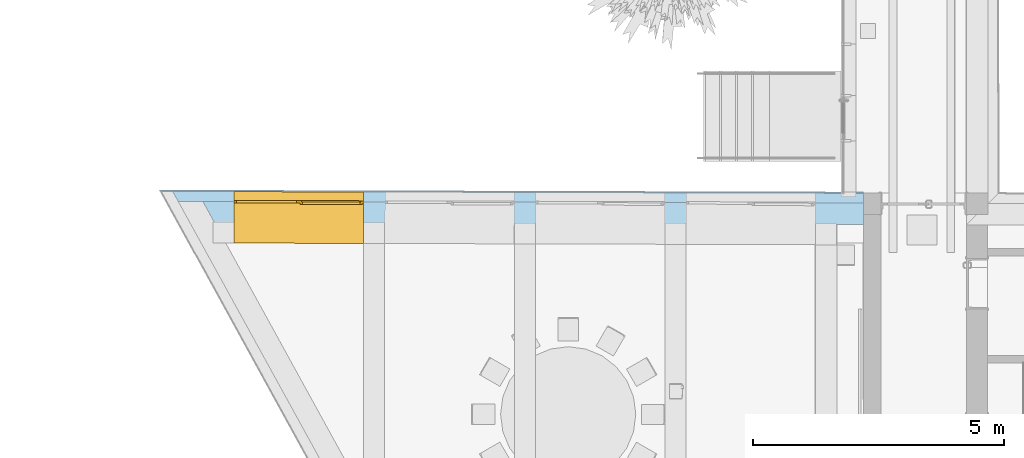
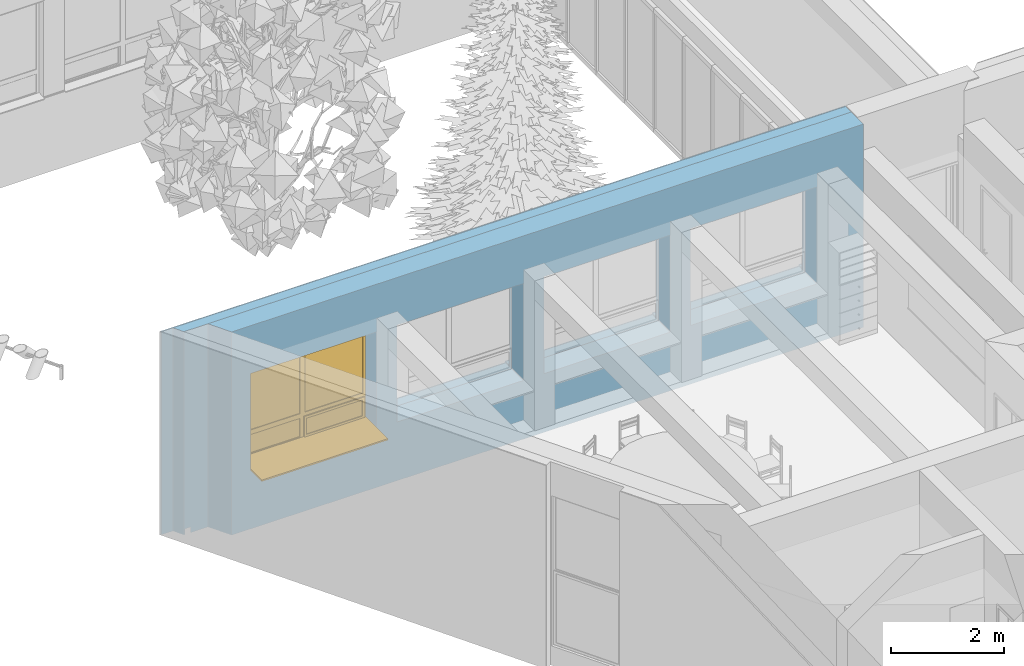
# One storey, part 85 of 194: 1 window, 4 openings, 1 element without a shape of its own, plus 3 elements that do not belong to this part.
"""IFC2X3 building model written with IfcOpenShell, lengths in millimetres."""

from ifc_helpers import new_model, entity, si_unit, converted_unit, derived_unit, money_unit, direction, frame, origin_with_axes, origin_2d_with_axis, place, context, subcontext, project, spatial, polyline, rectangle, outline, extrude, boolean, open_shell, faceted_brep, surface_model, material, type_object, element, fill, aggregate, save


model = new_model("IFC2X3")

# Units and contexts
model_context = context("Model", 3, precision=1e-05, world=origin_with_axes(), true_north=direction((0.0, 1.0)))
body_context = subcontext(model_context, "Body", "Model", "MODEL_VIEW")
ifc_project = project(units=[si_unit("LENGTHUNIT", "METRE", prefix="MILLI"), si_unit("AREAUNIT", "SQUARE_METRE"), si_unit("VOLUMEUNIT", "CUBIC_METRE"), converted_unit("PLANEANGLEUNIT", "DEGREE", entity("IfcPlaneAngleMeasure", 0.0174532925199), si_unit("PLANEANGLEUNIT", "RADIAN"), dimensions=[0, 0, 0, 0, 0, 0, 0]), si_unit("SOLIDANGLEUNIT", "STERADIAN"), money_unit("EUR"), converted_unit("TIMEUNIT", "Year", entity("IfcTimeMeasure", 31556926.0), si_unit("TIMEUNIT", "SECOND"), dimensions=[0, 0, 1, 0, 0, 0, 0]), si_unit("MASSUNIT", "GRAM", prefix="KILO"), si_unit("THERMODYNAMICTEMPERATUREUNIT", "DEGREE_CELSIUS"), si_unit("LUMINOUSINTENSITYUNIT", "LUMEN"), si_unit("ENERGYUNIT", "JOULE", prefix="MEGA"), derived_unit("THERMALCONDUCTANCEUNIT", [(si_unit("POWERUNIT", "WATT"), 1), (si_unit("LENGTHUNIT", "METRE"), -1), (si_unit("THERMODYNAMICTEMPERATUREUNIT", "KELVIN"), -1)]), derived_unit("SPECIFICHEATCAPACITYUNIT", [(si_unit("ENERGYUNIT", "JOULE"), 1), (si_unit("MASSUNIT", "GRAM", prefix="KILO"), -1), (si_unit("THERMODYNAMICTEMPERATUREUNIT", "KELVIN"), -1)]), derived_unit("MASSDENSITYUNIT", [(si_unit("MASSUNIT", "GRAM", prefix="KILO"), 1), (si_unit("VOLUMEUNIT", "CUBIC_METRE"), -1)])], contexts=[model_context])

# Site, building, storey
site_placement = place(None, origin_with_axes())
site = spatial("IfcSite", under=ifc_project, at=site_placement, Name="Site", CompositionType="ELEMENT")
building_placement = place(site_placement, origin_with_axes())
building = spatial("IfcBuilding", under=site, at=building_placement, Name="Building", CompositionType="ELEMENT")
storey_placement = place(building_placement, frame((0.0, 0.0, 3000.0), z_axis=(0.0, 0.0, 1.0), x_axis=(1.0, 0.0, 0.0)))
storey = spatial("IfcBuildingStorey", under=building, at=storey_placement, Name="2 KORRUS", CompositionType="ELEMENT", Elevation=3000.0)

# Window
window_style = type_object("IfcWindowStyle", Name="A2   2\xa0580×2\xa0100", ConstructionType="NOTDEFINED", OperationType="USERDEFINED", ParameterTakesPrecedence=False, Sizeable=False)
wall_placement = place(storey_placement, frame((24039.9995096, 22808.1040573, -420.0), z_axis=(0.0, 0.0, 1.0), x_axis=(0.999996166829, -0.0027688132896, 0.0)))
opening_4_placement = place(wall_placement, frame((2405.57062544, 9.09494701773e-10, 1270.0), z_axis=(0.0, 0.0, 1.0), x_axis=(1.0, 0.0, 0.0)))
window_placement = place(opening_4_placement, frame((1290.0, -1.81898940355e-09, 0.0), z_axis=(0.0, 0.0, 1.0), x_axis=(-1.0, 0.0, 0.0)))
window = element("IfcWindow", 1, at=window_placement, inside=storey, type_object=window_style, Name="välisaken * Double Window 22", OverallHeight=2100.0, OverallWidth=2580.0, context=body_context, shape_type="SurfaceModel", body=[
    faceted_brep([(2580.0, -220.0, 5.0), (2580.0, -19.9999999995, 5.0), (2580.0, -19.9999999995, 30.0), (2580.0, -220.0, 19.5184441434), (-1.13686837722e-10, -19.9999999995, 5.0), (0.0, -220.0, 5.0), (-1.13686837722e-10, -19.9999999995, 30.0), (0.0, -220.0, 19.5184441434)], [[[0, 1, 2, 3]], [[4, 1, 0, 5]], [[1, 4, 6, 2]], [[3, 2, 6, 7]], [[5, 0, 3, 7]], [[4, 5, 7, 6]]]),
    faceted_brep([(2580.0, -19.9999999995, 0.0), (2580.0, -19.9999999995, 5.0), (2580.0, -220.0, 5.0), (2580.0, -220.0, 0.0), (-1.13686837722e-10, -19.9999999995, 0.0), (-1.13686837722e-10, -19.9999999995, 5.0), (0.0, -220.0, 5.0), (0.0, -220.0, 0.0)], [[[0, 1, 2, 3]], [[4, 5, 1, 0]], [[1, 5, 6, 2]], [[3, 2, 6, 7]], [[0, 3, 7, 4]], [[7, 6, 5, 4]]]),
    faceted_brep([(0.0, 29.9999999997, 0.0), (0.0, 29.9999999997, 30.0), (-1.13686837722e-10, 430.0, 30.0), (-1.13686837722e-10, 430.0, 0.0), (2580.0, 29.9999999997, 0.0), (2580.0, 29.9999999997, 30.0), (2580.0, 430.0, 30.0), (2580.0, 830.0, 30.0), (-1.13686837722e-10, 830.0, 30.0), (-1.13686837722e-10, 830.0, 0.0), (2580.0, 830.0, 0.0), (2580.0, 430.0, 0.0)], [[[0, 1, 2, 3]], [[4, 5, 1, 0]], [[1, 5, 6, 7, 8, 2]], [[3, 2, 8, 9]], [[0, 3, 9, 10, 11, 4]], [[11, 6, 5, 4]], [[10, 7, 6, 11]], [[9, 8, 7, 10]]]),
    faceted_brep([(25.0, 30.0000000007, 475.0), (25.0, 30.0000000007, 50.0), (0.0, 29.9999999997, 50.0), (0.0, 29.9999999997, 2050.0), (50.0, 29.9999999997, 2050.0), (50.0, 29.9999999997, 550.0), (50.0, 29.9999999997, 475.0), (25.0, 5.00000000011, 475.0), (25.0, 5.00000000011, 50.0), (50.0, 5.00000000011, 50.0), (49.9999999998, -20.0000000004, 50.0), (-1.13686837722e-10, -19.9999999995, 50.0), (-1.13686837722e-10, -19.9999999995, 2050.0), (49.9999999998, -20.0000000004, 2050.0), (49.9999999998, -20.0000000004, 550.0), (50.0, 5.00000000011, 475.0), (49.9999999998, -20.0000000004, 450.0), (50.0, 5.00000000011, 450.0)], [[[0, 1, 2, 3, 4, 5, 6]], [[1, 0, 7, 8]], [[8, 9, 10, 11, 2, 1]], [[2, 11, 12, 3]], [[3, 12, 13, 4]], [[4, 13, 14, 5]], [[15, 6, 5, 14, 16, 17]], [[0, 6, 15, 7]], [[9, 8, 7, 15, 17]], [[9, 17, 16, 10]], [[11, 10, 16, 14, 13, 12]]]),
    faceted_brep([(1265.0, 29.9999999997, 50.0), (1265.0, 29.9999999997, 475.0), (1240.0, 29.9999999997, 475.0), (1240.0, 29.9999999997, 550.0), (1240.0, 29.9999999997, 2050.0), (1340.0, 30.0000000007, 2050.0), (1340.0, 30.0000000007, 550.0), (1340.0, 30.0000000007, 450.0), (1340.0, 30.0000000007, 50.0), (1265.0, 5.00000000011, 50.0), (1265.0, 5.00000000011, 475.0), (1240.0, 5.00000000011, 475.0), (1240.0, 5.00000000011, 450.0), (1240.0, -20.0000000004, 450.0), (1240.0, -20.0000000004, 550.0), (1240.0, -20.0000000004, 2050.0), (1340.0, -19.9999999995, 2050.0), (1340.0, -19.9999999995, 550.0), (1340.0, -19.9999999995, 450.0), (1340.0, -19.9999999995, 50.0), (1240.0, -20.0000000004, 50.0), (1240.0, 5.00000000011, 50.0)], [[[0, 1, 2, 3, 4, 5, 6, 7, 8]], [[1, 0, 9, 10]], [[11, 2, 1, 10]], [[11, 12, 13, 14, 3, 2]], [[3, 14, 15, 4]], [[4, 15, 16, 5]], [[5, 16, 17, 6]], [[6, 17, 18, 7]], [[7, 18, 19, 8]], [[9, 0, 8, 19, 20, 21]], [[12, 11, 10, 9, 21]], [[12, 21, 20, 13]], [[18, 17, 16, 15, 14, 13, 20, 19]]]),
    faceted_brep([(1240.0, 29.9999999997, 475.0), (50.0, 29.9999999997, 475.0), (50.0, 29.9999999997, 550.0), (1240.0, 29.9999999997, 550.0), (50.0, 5.00000000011, 475.0), (1240.0, 5.00000000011, 475.0), (50.0, 5.00000000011, 450.0), (49.9999999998, -20.0000000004, 450.0), (49.9999999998, -20.0000000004, 550.0), (1240.0, -20.0000000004, 550.0), (1240.0, -20.0000000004, 450.0), (1240.0, 5.00000000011, 450.0)], [[[0, 1, 2, 3]], [[4, 1, 0, 5]], [[4, 6, 7, 8, 2, 1]], [[2, 8, 9, 3]], [[5, 0, 3, 9, 10, 11]], [[6, 4, 5, 11]], [[6, 11, 10, 7]], [[10, 9, 8, 7]]]),
    faceted_brep([(50.0, 5.00000000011, 50.0), (25.0, 5.00000000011, 50.0), (25.0, 30.0000000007, 50.0), (0.0, 29.9999999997, 50.0), (-1.13686837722e-10, -19.9999999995, 50.0), (49.9999999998, -20.0000000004, 50.0), (1240.0, 5.00000000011, 50.0), (1265.0, 5.00000000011, 50.0), (1265.0, 5.00000000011, 25.0), (25.0, 5.00000000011, 25.0), (25.0, 30.0000000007, 25.0), (1265.0, 29.9999999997, 25.0), (1265.0, 29.9999999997, 50.0), (1340.0, 30.0000000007, 50.0), (2530.0, 29.9999999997, 50.0), (2580.0, 29.9999999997, 50.0), (2580.0, 29.9999999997, 0.0), (0.0, 29.9999999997, 0.0), (-1.13686837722e-10, -19.9999999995, 0.0), (2580.0, -19.9999999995, 50.0), (2530.0, -19.9999999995, 50.0), (1340.0, -19.9999999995, 50.0), (1240.0, -20.0000000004, 50.0), (2580.0, -19.9999999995, 0.0)], [[[0, 1, 2, 3, 4, 5]], [[1, 0, 6, 7, 8, 9]], [[10, 2, 1, 9]], [[11, 12, 13, 14, 15, 16, 17, 3, 2, 10]], [[17, 18, 4, 3]], [[19, 20, 21, 22, 5, 4, 18, 23]], [[6, 0, 5, 22]], [[7, 6, 22, 21, 13, 12]], [[7, 12, 11, 8]], [[11, 10, 9, 8]], [[13, 21, 20, 14]], [[14, 20, 19, 15]], [[15, 19, 23, 16]], [[16, 23, 18, 17]]]),
    faceted_brep([(2530.0, -19.9999999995, 450.0), (2530.0, -19.9999999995, 550.0), (2530.0, 29.9999999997, 550.0), (2530.0, 29.9999999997, 450.0), (2530.0, -19.9999999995, 50.0), (2580.0, -19.9999999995, 50.0), (2580.0, -19.9999999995, 2050.0), (2530.0, -19.9999999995, 2050.0), (2530.0, 29.9999999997, 2050.0), (2580.0, 29.9999999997, 2050.0), (2580.0, 29.9999999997, 50.0), (2530.0, 29.9999999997, 50.0)], [[[0, 1, 2, 3]], [[0, 4, 5, 6, 7, 1]], [[1, 7, 8, 2]], [[3, 2, 8, 9, 10, 11]], [[4, 0, 3, 11]], [[5, 4, 11, 10]], [[6, 5, 10, 9]], [[7, 6, 9, 8]]]),
    faceted_brep([(1340.0, -19.9999999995, 450.0), (1340.0, -19.9999999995, 550.0), (1340.0, 30.0000000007, 550.0), (1340.0, 30.0000000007, 450.0), (2530.0, -19.9999999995, 450.0), (2530.0, -19.9999999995, 550.0), (2530.0, 29.9999999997, 550.0), (2530.0, 29.9999999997, 450.0)], [[[0, 1, 2, 3]], [[0, 4, 5, 1]], [[1, 5, 6, 2]], [[3, 2, 6, 7]], [[4, 0, 3, 7]], [[5, 4, 7, 6]]]),
    faceted_brep([(1340.0, -19.9999999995, 2050.0), (1240.0, -20.0000000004, 2050.0), (1240.0, 29.9999999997, 2050.0), (1340.0, 30.0000000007, 2050.0), (2530.0, -19.9999999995, 2050.0), (2580.0, -19.9999999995, 2050.0), (2580.0, -19.9999999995, 2100.0), (-1.13686837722e-10, -19.9999999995, 2100.0), (-1.13686837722e-10, -19.9999999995, 2050.0), (49.9999999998, -20.0000000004, 2050.0), (50.0, 29.9999999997, 2050.0), (0.0, 29.9999999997, 2050.0), (0.0, 29.9999999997, 2100.0), (2580.0, 29.9999999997, 2100.0), (2580.0, 29.9999999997, 2050.0), (2530.0, 29.9999999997, 2050.0)], [[[0, 1, 2, 3]], [[0, 4, 5, 6, 7, 8, 9, 1]], [[1, 9, 10, 2]], [[3, 2, 10, 11, 12, 13, 14, 15]], [[4, 0, 3, 15]], [[5, 4, 15, 14]], [[6, 5, 14, 13]], [[7, 6, 13, 12]], [[8, 7, 12, 11]], [[9, 8, 11, 10]]]),
    surface_model("IfcShellBasedSurfaceModel", [(2530.0, -4.9999999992, 550.0), (2530.0, -4.9999999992, 2050.0), (1340.0, -5.00000000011, 2050.0), (1340.0, -5.00000000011, 550.0)], [open_shell([[[0, 1, 2, 3]]])]),
    surface_model("IfcShellBasedSurfaceModel", [(2530.0, 15.0000000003, 550.0), (1340.0, 15.0000000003, 550.0), (1340.0, 15.0000000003, 2050.0), (2530.0, 15.0000000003, 2050.0)], [open_shell([[[0, 1, 2, 3]]])]),
    surface_model("IfcShellBasedSurfaceModel", [(1240.0, -5.00000000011, 550.0), (1240.0, -5.00000000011, 2050.0), (49.9999999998, -5.00000000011, 2050.0), (49.9999999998, -5.00000000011, 550.0)], [open_shell([[[0, 1, 2, 3]]])]),
    surface_model("IfcShellBasedSurfaceModel", [(1240.0, 15.0000000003, 550.0), (49.9999999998, 14.9999999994, 550.0), (49.9999999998, 14.9999999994, 2050.0), (1240.0, 15.0000000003, 2050.0)], [open_shell([[[0, 1, 2, 3]]])]),
    surface_model("IfcShellBasedSurfaceModel", [(2530.0, -4.9999999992, 50.0), (2530.0, -4.9999999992, 450.0), (1340.0, -5.00000000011, 450.0), (1340.0, -5.00000000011, 50.0)], [open_shell([[[0, 1, 2, 3]]])]),
    surface_model("IfcShellBasedSurfaceModel", [(2530.0, 15.0000000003, 50.0), (1340.0, 15.0000000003, 50.0), (1340.0, 15.0000000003, 450.0), (2530.0, 15.0000000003, 450.0)], [open_shell([[[0, 1, 2, 3]]])]),
    faceted_brep([(1215.0, 5.00000000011, 425.0), (1265.0, 5.00000000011, 425.0), (1265.0, 55.0000000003, 425.0), (1215.0, 55.0000000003, 425.0), (1215.0, 5.00000000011, 75.0), (1265.0, 5.00000000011, 75.0), (1265.0, 55.0000000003, 75.0), (1215.0, 55.0000000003, 75.0)], [[[0, 1, 2, 3]], [[0, 4, 5, 1]], [[1, 5, 6, 2]], [[3, 2, 6, 7]], [[4, 0, 3, 7]], [[5, 4, 7, 6]]]),
    faceted_brep([(75.0, 5.00000000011, 75.0), (25.0, 5.00000000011, 75.0), (25.0, 55.0000000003, 75.0), (75.0, 55.0000000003, 75.0), (75.0, 5.00000000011, 425.0), (25.0, 5.00000000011, 425.0), (25.0, 55.0000000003, 425.0), (75.0, 55.0000000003, 425.0)], [[[0, 1, 2, 3]], [[0, 4, 5, 1]], [[1, 5, 6, 2]], [[3, 2, 6, 7]], [[4, 0, 3, 7]], [[5, 4, 7, 6]]]),
    faceted_brep([(25.0, 5.00000000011, 25.0), (25.0, 5.00000000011, 75.0), (25.0, 55.0000000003, 75.0), (25.0, 55.0000000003, 25.0), (1265.0, 5.00000000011, 25.0), (1265.0, 5.00000000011, 75.0), (1215.0, 5.00000000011, 75.0), (75.0, 5.00000000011, 75.0), (75.0, 55.0000000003, 75.0), (1215.0, 55.0000000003, 75.0), (1265.0, 55.0000000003, 75.0), (1265.0, 55.0000000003, 25.0)], [[[0, 1, 2, 3]], [[0, 4, 5, 6, 7, 1]], [[1, 7, 8, 2]], [[3, 2, 8, 9, 10, 11]], [[4, 0, 3, 11]], [[5, 4, 11, 10]], [[6, 5, 10, 9]], [[7, 6, 9, 8]]]),
    faceted_brep([(1265.0, 5.00000000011, 475.0), (1265.0, 5.00000000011, 425.0), (1265.0, 55.0000000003, 425.0), (1265.0, 55.0000000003, 475.0), (25.0, 5.00000000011, 475.0), (25.0, 5.00000000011, 425.0), (75.0, 5.00000000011, 425.0), (1215.0, 5.00000000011, 425.0), (1215.0, 55.0000000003, 425.0), (75.0, 55.0000000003, 425.0), (25.0, 55.0000000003, 425.0), (25.0, 55.0000000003, 475.0)], [[[0, 1, 2, 3]], [[0, 4, 5, 6, 7, 1]], [[1, 7, 8, 2]], [[3, 2, 8, 9, 10, 11]], [[4, 0, 3, 11]], [[5, 4, 11, 10]], [[6, 5, 10, 9]], [[7, 6, 9, 8]]]),
    surface_model("IfcShellBasedSurfaceModel", [(1215.0, 19.9999999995, 75.0), (1215.0, 19.9999999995, 425.0), (74.9999999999, 20.0000000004, 425.0), (74.9999999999, 20.0000000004, 75.0)], [open_shell([[[0, 1, 2, 3]]])]),
    surface_model("IfcShellBasedSurfaceModel", [(1215.0, 40.0, 75.0), (74.9999999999, 40.0, 75.0), (74.9999999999, 40.0, 425.0), (1215.0, 40.0, 425.0)], [open_shell([[[0, 1, 2, 3]]])]),
])

# Wall, openings
wall_type = type_object("IfcWallType", Name="VS4", PredefinedType="NOTDEFINED")
wall = element("IfcWall", 2, at=wall_placement, inside=storey, type_object=wall_type, Name="VS4")
opening_1_placement = place(wall_placement, frame((11402.4933934, 0.0, 1270.0), z_axis=(0.0, 0.0, 1.0), x_axis=(1.0, 0.0, 0.0)))
element("IfcOpeningElement", 3, at=opening_1_placement, cuts=wall, Name="välisaken * Double Window 22", context=body_context, shape_type="SweptSolid", body=[
    extrude(rectangle(XDim=2580.0, YDim=2100.0, at=origin_2d_with_axis()), frame((0.0, 19.9999999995, 1050.0), z_axis=(0.0, -1.0, 0.0), x_axis=(1.0, 0.0, 0.0)), (0.0, 0.0, 1.0), 1100.0),
    extrude(rectangle(XDim=2580.0, YDim=2100.0, at=origin_2d_with_axis()), frame((1.13686837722e-10, 19.9999999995, 1050.0), z_axis=(0.0, 1.0, 0.0), x_axis=(1.0, 0.0, 0.0)), (0.0, 0.0, 1.0), 850.0),
])
opening_2_placement = place(wall_placement, frame((8405.57062544, -9.09494701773e-10, 1270.0), z_axis=(0.0, 0.0, 1.0), x_axis=(1.0, 0.0, 0.0)))
element("IfcOpeningElement", 4, at=opening_2_placement, cuts=wall, Name="välisaken * Double Window 22", context=body_context, shape_type="SweptSolid", body=[
    extrude(rectangle(XDim=2580.0, YDim=2100.0, at=origin_2d_with_axis()), frame((0.0, 19.9999999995, 1050.0), z_axis=(0.0, -1.0, 0.0), x_axis=(1.0, 0.0, 0.0)), (0.0, 0.0, 1.0), 1100.0),
    extrude(rectangle(XDim=2580.0, YDim=2100.0, at=origin_2d_with_axis()), frame((0.0, 19.9999999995, 1050.0), z_axis=(0.0, 1.0, 0.0), x_axis=(1.0, 0.0, 0.0)), (0.0, 0.0, 1.0), 850.0),
])
opening_3_placement = place(wall_placement, frame((5405.57062544, 0.0, 1270.0), z_axis=(0.0, 0.0, 1.0), x_axis=(1.0, 0.0, 0.0)))
element("IfcOpeningElement", 5, at=opening_3_placement, cuts=wall, Name="välisaken * Double Window 22", context=body_context, shape_type="SweptSolid", body=[
    extrude(rectangle(XDim=2580.0, YDim=2100.0, at=origin_2d_with_axis()), frame((1.13686837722e-10, 20.0000000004, 1050.0), z_axis=(0.0, -1.0, 0.0), x_axis=(1.0, 0.0, 0.0)), (0.0, 0.0, 1.0), 1100.0),
    extrude(rectangle(XDim=2580.0, YDim=2100.0, at=origin_2d_with_axis()), frame((1.13686837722e-10, 20.0000000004, 1050.0), z_axis=(0.0, 1.0, 0.0), x_axis=(1.0, 0.0, 0.0)), (0.0, 0.0, 1.0), 850.0),
])
opening_4 = element("IfcOpeningElement", 6, at=opening_4_placement, cuts=wall, Name="välisaken * Double Window 22", context=body_context, shape_type="SweptSolid", body=[
    extrude(rectangle(XDim=2580.0, YDim=2100.0, at=origin_2d_with_axis()), frame((1.13686837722e-10, 19.9999999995, 1050.0), z_axis=(0.0, -1.0, 0.0), x_axis=(1.0, 0.0, 0.0)), (0.0, 0.0, 1.0), 1100.0),
    extrude(rectangle(XDim=2580.0, YDim=2100.0, at=origin_2d_with_axis()), frame((1.13686837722e-10, 19.9999999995, 1050.0), z_axis=(0.0, 1.0, 0.0), x_axis=(1.0, 0.0, 0.0)), (0.0, 0.0, 1.0), 850.0),
])

fill(opening_4, window)

# Building element part
ifc_material_1 = material(Name="Tellis - Konstuktsioon")
building_element_part_1_placement = place(wall_placement, origin_with_axes())
solid_1 = boolean("DIFFERENCE", boolean("DIFFERENCE", boolean("DIFFERENCE", boolean("DIFFERENCE", boolean("DIFFERENCE", boolean("DIFFERENCE", boolean("DIFFERENCE", boolean("DIFFERENCE", extrude(outline(polyline([(-373.259010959, -430.0), (13648.1213334, -430.0), (13648.1213334, 0.0), (-373.259010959, 0.0), (-373.259010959, -430.0)])), origin_with_axes(), (0.0, 0.0, 1.0), 4400.0), faceted_brep([(729.551703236, -430.0, 0.0), (729.551703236, -430.0, 4400.0), (-373.259010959, -430.0, 4400.0), (-373.259010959, -430.0, 0.0), (491.497507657, 0.0, 4400.0), (491.497507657, 0.0, 0.0), (-373.259010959, 0.0, 4400.0), (-373.259010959, 0.0, 0.0)], [[[0, 1, 2, 3]], [[4, 1, 0, 5]], [[1, 4, 6, 2]], [[3, 2, 6, 7]], [[5, 0, 3, 7]], [[4, 5, 7, 6]]])), faceted_brep([(18.915191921, 0.0, 122.647898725), (18.9151919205, 9.09494701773e-10, 0.0), (134.721092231, 9.09494701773e-10, 0.0), (134.72109223, 0.0, 122.647898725), (-90.7482444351, 200.0, 122.647898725), (-90.7482444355, 200.000000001, 0.0), (479.482351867, 200.000000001, 0.0), (484.103394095, 191.572319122, 0.0), (484.103394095, 191.572319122, 122.647898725), (479.482351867, 200.0, 122.647898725)], [[[0, 1, 2, 3]], [[1, 0, 4, 5]], [[2, 1, 5, 6, 7]], [[3, 2, 7, 8]], [[0, 3, 8, 9, 4]], [[5, 4, 9, 6]], [[7, 6, 9, 8]]])), faceted_brep([(-373.259010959, 0.0, 0.0), (0.0, 9.09494701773e-10, 0.0), (0.0, 9.09494701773e-10, 4400.0), (-373.259010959, 0.0, 4400.0), (-373.259010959, 200.0, 0.0), (-110.722881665, 200.000000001, 0.0), (-110.722881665, 200.000000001, 4400.0), (-373.259010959, 200.0, 4400.0)], [[[0, 1, 2, 3]], [[1, 0, 4, 5]], [[2, 1, 5, 6]], [[3, 2, 6, 7]], [[4, 0, 3, 7]], [[5, 4, 7, 6]]])), faceted_brep([(13416.1760753, 0.0081175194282, 340.0), (13416.176095, 9.09494701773e-10, 420.0), (13323.1995313, 0.151845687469, 420.0), (13323.1995313, 0.151845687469, 340.0), (13416.176095, 9.09494701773e-10, 0.0), (13648.1213334, 0.0, 0.0), (13648.1213334, 0.0, 420.0), (13648.1213334, 200.0, 420.0), (13322.7166463, 200.000000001, 420.0), (13322.7166463, 200.000000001, 340.0), (13415.6925541, 200.0, 340.0), (13415.6925541, 200.0, 0.0), (13648.1213334, 200.0, 0.0)], [[[0, 1, 2, 3]], [[0, 4, 5, 6, 1]], [[2, 1, 6, 7, 8]], [[3, 2, 8, 9]], [[0, 3, 9, 10]], [[4, 0, 10, 11]], [[5, 4, 11, 12]], [[6, 5, 12, 7]], [[9, 8, 7, 12, 11, 10]]])), faceted_brep([(728.20897733, 54.9444939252, 1300.0), (12965.6129154, 88.8277104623, 1300.0), (12965.6129154, 88.8277104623, 3400.0), (728.20897733, 54.9444939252, 3400.0), (727.807344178, 200.0, 1300.0), (12965.3050989, 200.0, 1300.0), (12965.3050989, 200.0, 3400.0), (727.807344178, 200.0, 3400.0)], [[[0, 1, 2, 3]], [[0, 4, 5, 1]], [[1, 5, 6, 2]], [[7, 3, 2, 6]], [[3, 7, 4, 0]], [[6, 5, 4, 7]]])), faceted_brep([(-339.326373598, 200.000000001, 0.0), (-339.326373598, 200.000000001, 4400.0), (-373.259010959, 200.0, 4400.0), (-373.259010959, 200.0, 0.0), (-350.398661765, 220.0, 4400.0), (-350.398661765, 220.0, 0.0), (-373.259010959, 219.999999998, 4400.0), (-373.259010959, 219.999999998, 0.0)], [[[0, 1, 2, 3]], [[4, 1, 0, 5]], [[1, 4, 6, 2]], [[6, 7, 3, 2]], [[5, 0, 3, 7]], [[4, 5, 7, 6]]])), faceted_brep([(-90.7482444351, 200.0, 122.647898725), (-90.7482444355, 200.000000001, 0.0), (479.482351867, 200.000000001, 0.0), (479.482351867, 200.0, 122.647898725), (-101.714588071, 220.000000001, 0.0), (-101.714588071, 220.000000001, 122.647898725), (468.516008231, 220.0, 0.0), (468.516008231, 220.000000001, 122.647898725)], [[[0, 1, 2, 3]], [[4, 1, 0, 5]], [[6, 2, 1, 4]], [[2, 6, 7, 3]], [[7, 5, 0, 3]], [[7, 6, 4, 5]]])), faceted_brep([(727.807344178, 200.0, 1300.0), (12965.3050989, 200.0, 1300.0), (12965.3050989, 200.0, 3400.0), (727.807344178, 200.0, 3400.0), (727.7519677, 220.0, 1300.0), (12965.2497224, 220.000000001, 1300.0), (12965.2497224, 220.000000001, 3400.0), (727.7519677, 219.999999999, 3400.0)], [[[0, 1, 2, 3]], [[4, 5, 1, 0]], [[5, 6, 2, 1]], [[6, 7, 3, 2]], [[7, 4, 0, 3]], [[4, 7, 6, 5]]]))
building_element_part_1 = element("IfcBuildingElementPart", 7, at=building_element_part_1_placement, material=ifc_material_1, Name="Tellis - Konstuktsioon", context=body_context, shape_type="CSG", body=[
    boolean("DIFFERENCE", solid_1, faceted_brep([(13322.6683211, 220.000000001, 340.0), (13322.6683211, 220.000000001, 420.0), (13648.1213334, 220.0, 420.0), (13648.1213334, 219.999999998, 0.0), (13415.6442, 220.0, 0.0), (13415.6442, 220.0, 340.0), (13322.7166463, 200.000000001, 340.0), (13322.7166463, 200.000000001, 420.0), (13648.1213334, 200.0, 420.0), (13648.1213334, 200.0, 0.0), (13415.6925541, 200.0, 0.0), (13415.6925541, 200.0, 340.0)], [[[0, 1, 2, 3, 4, 5]], [[1, 0, 6, 7]], [[8, 2, 1, 7]], [[2, 8, 9, 3]], [[10, 4, 3, 9]], [[5, 4, 10, 11]], [[0, 5, 11, 6]], [[11, 10, 9, 8, 7, 6]]])),
])

ifc_material_2 = material(Name="Soojustus - Plastik Kõva")
building_element_part_2_placement = place(wall_placement, origin_with_axes())
solid_2 = boolean("DIFFERENCE", boolean("DIFFERENCE", boolean("DIFFERENCE", boolean("DIFFERENCE", boolean("DIFFERENCE", boolean("DIFFERENCE", boolean("DIFFERENCE", boolean("DIFFERENCE", extrude(outline(polyline([(-373.259010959, 0.0), (13648.1213334, 0.0), (13648.1213334, 200.0), (-373.259010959, 200.0), (-373.259010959, 0.0)])), origin_with_axes(), (0.0, 0.0, 1.0), 4400.0), faceted_brep([(729.551703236, -430.0, 0.0), (729.551703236, -430.0, 4400.0), (-373.259010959, -430.0, 4400.0), (-373.259010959, -430.0, 0.0), (491.497507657, 0.0, 4400.0), (491.497507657, 0.0, 0.0), (-373.259010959, 0.0, 4400.0), (-373.259010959, 0.0, 0.0)], [[[0, 1, 2, 3]], [[4, 1, 0, 5]], [[1, 4, 6, 2]], [[3, 2, 6, 7]], [[5, 0, 3, 7]], [[4, 5, 7, 6]]])), faceted_brep([(18.915191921, 0.0, 122.647898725), (18.9151919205, 9.09494701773e-10, 0.0), (134.721092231, 9.09494701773e-10, 0.0), (134.72109223, 0.0, 122.647898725), (-90.7482444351, 200.0, 122.647898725), (-90.7482444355, 200.000000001, 0.0), (479.482351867, 200.000000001, 0.0), (484.103394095, 191.572319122, 0.0), (484.103394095, 191.572319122, 122.647898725), (479.482351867, 200.0, 122.647898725)], [[[0, 1, 2, 3]], [[1, 0, 4, 5]], [[2, 1, 5, 6, 7]], [[3, 2, 7, 8]], [[0, 3, 8, 9, 4]], [[5, 4, 9, 6]], [[7, 6, 9, 8]]])), faceted_brep([(-373.259010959, 0.0, 0.0), (0.0, 9.09494701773e-10, 0.0), (0.0, 9.09494701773e-10, 4400.0), (-373.259010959, 0.0, 4400.0), (-373.259010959, 200.0, 0.0), (-110.722881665, 200.000000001, 0.0), (-110.722881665, 200.000000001, 4400.0), (-373.259010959, 200.0, 4400.0)], [[[0, 1, 2, 3]], [[1, 0, 4, 5]], [[2, 1, 5, 6]], [[3, 2, 6, 7]], [[4, 0, 3, 7]], [[5, 4, 7, 6]]])), faceted_brep([(13416.1760753, 0.0081175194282, 340.0), (13416.176095, 9.09494701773e-10, 420.0), (13323.1995313, 0.151845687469, 420.0), (13323.1995313, 0.151845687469, 340.0), (13416.176095, 9.09494701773e-10, 0.0), (13648.1213334, 0.0, 0.0), (13648.1213334, 0.0, 420.0), (13648.1213334, 200.0, 420.0), (13322.7166463, 200.000000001, 420.0), (13322.7166463, 200.000000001, 340.0), (13415.6925541, 200.0, 340.0), (13415.6925541, 200.0, 0.0), (13648.1213334, 200.0, 0.0)], [[[0, 1, 2, 3]], [[0, 4, 5, 6, 1]], [[2, 1, 6, 7, 8]], [[3, 2, 8, 9]], [[0, 3, 9, 10]], [[4, 0, 10, 11]], [[5, 4, 11, 12]], [[6, 5, 12, 7]], [[9, 8, 7, 12, 11, 10]]])), faceted_brep([(728.20897733, 54.9444939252, 1300.0), (12965.6129154, 88.8277104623, 1300.0), (12965.6129154, 88.8277104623, 3400.0), (728.20897733, 54.9444939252, 3400.0), (727.807344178, 200.0, 1300.0), (12965.3050989, 200.0, 1300.0), (12965.3050989, 200.0, 3400.0), (727.807344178, 200.0, 3400.0)], [[[0, 1, 2, 3]], [[0, 4, 5, 1]], [[1, 5, 6, 2]], [[7, 3, 2, 6]], [[3, 7, 4, 0]], [[6, 5, 4, 7]]])), faceted_brep([(-339.326373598, 200.000000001, 0.0), (-339.326373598, 200.000000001, 4400.0), (-373.259010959, 200.0, 4400.0), (-373.259010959, 200.0, 0.0), (-350.398661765, 220.0, 4400.0), (-350.398661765, 220.0, 0.0), (-373.259010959, 219.999999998, 4400.0), (-373.259010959, 219.999999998, 0.0)], [[[0, 1, 2, 3]], [[4, 1, 0, 5]], [[1, 4, 6, 2]], [[6, 7, 3, 2]], [[5, 0, 3, 7]], [[4, 5, 7, 6]]])), faceted_brep([(-90.7482444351, 200.0, 122.647898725), (-90.7482444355, 200.000000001, 0.0), (479.482351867, 200.000000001, 0.0), (479.482351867, 200.0, 122.647898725), (-101.714588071, 220.000000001, 0.0), (-101.714588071, 220.000000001, 122.647898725), (468.516008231, 220.0, 0.0), (468.516008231, 220.000000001, 122.647898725)], [[[0, 1, 2, 3]], [[4, 1, 0, 5]], [[6, 2, 1, 4]], [[2, 6, 7, 3]], [[7, 5, 0, 3]], [[7, 6, 4, 5]]])), faceted_brep([(727.807344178, 200.0, 1300.0), (12965.3050989, 200.0, 1300.0), (12965.3050989, 200.0, 3400.0), (727.807344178, 200.0, 3400.0), (727.7519677, 220.0, 1300.0), (12965.2497224, 220.000000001, 1300.0), (12965.2497224, 220.000000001, 3400.0), (727.7519677, 219.999999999, 3400.0)], [[[0, 1, 2, 3]], [[4, 5, 1, 0]], [[5, 6, 2, 1]], [[6, 7, 3, 2]], [[7, 4, 0, 3]], [[4, 7, 6, 5]]]))
building_element_part_2 = element("IfcBuildingElementPart", 8, at=building_element_part_2_placement, material=ifc_material_2, Name="Soojustus - Plastik Kõva", context=body_context, shape_type="CSG", body=[
    boolean("DIFFERENCE", solid_2, faceted_brep([(13322.6683211, 220.000000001, 340.0), (13322.6683211, 220.000000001, 420.0), (13648.1213334, 220.0, 420.0), (13648.1213334, 219.999999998, 0.0), (13415.6442, 220.0, 0.0), (13415.6442, 220.0, 340.0), (13322.7166463, 200.000000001, 340.0), (13322.7166463, 200.000000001, 420.0), (13648.1213334, 200.0, 420.0), (13648.1213334, 200.0, 0.0), (13415.6925541, 200.0, 0.0), (13415.6925541, 200.0, 340.0)], [[[0, 1, 2, 3, 4, 5]], [[1, 0, 6, 7]], [[8, 2, 1, 7]], [[2, 8, 9, 3]], [[10, 4, 3, 9]], [[5, 4, 10, 11]], [[0, 5, 11, 6]], [[11, 10, 9, 8, 7, 6]]])),
])

ifc_material_3 = material(Name="Tellis - Viimistlus")
building_element_part_3_placement = place(wall_placement, origin_with_axes())
solid_3 = boolean("DIFFERENCE", boolean("DIFFERENCE", boolean("DIFFERENCE", boolean("DIFFERENCE", boolean("DIFFERENCE", boolean("DIFFERENCE", boolean("DIFFERENCE", boolean("DIFFERENCE", extrude(outline(polyline([(-373.259010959, 200.0), (13648.1213334, 200.0), (13648.1213334, 219.999999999), (-373.259010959, 219.999999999), (-373.259010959, 200.0)])), origin_with_axes(), (0.0, 0.0, 1.0), 4400.0), faceted_brep([(729.551703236, -430.0, 0.0), (729.551703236, -430.0, 4400.0), (-373.259010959, -430.0, 4400.0), (-373.259010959, -430.0, 0.0), (491.497507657, 0.0, 4400.0), (491.497507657, 0.0, 0.0), (-373.259010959, 0.0, 4400.0), (-373.259010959, 0.0, 0.0)], [[[0, 1, 2, 3]], [[4, 1, 0, 5]], [[1, 4, 6, 2]], [[3, 2, 6, 7]], [[5, 0, 3, 7]], [[4, 5, 7, 6]]])), faceted_brep([(18.915191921, 0.0, 122.647898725), (18.9151919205, 9.09494701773e-10, 0.0), (134.721092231, 9.09494701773e-10, 0.0), (134.72109223, 0.0, 122.647898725), (-90.7482444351, 200.0, 122.647898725), (-90.7482444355, 200.000000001, 0.0), (479.482351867, 200.000000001, 0.0), (484.103394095, 191.572319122, 0.0), (484.103394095, 191.572319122, 122.647898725), (479.482351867, 200.0, 122.647898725)], [[[0, 1, 2, 3]], [[1, 0, 4, 5]], [[2, 1, 5, 6, 7]], [[3, 2, 7, 8]], [[0, 3, 8, 9, 4]], [[5, 4, 9, 6]], [[7, 6, 9, 8]]])), faceted_brep([(-373.259010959, 0.0, 0.0), (0.0, 9.09494701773e-10, 0.0), (0.0, 9.09494701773e-10, 4400.0), (-373.259010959, 0.0, 4400.0), (-373.259010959, 200.0, 0.0), (-110.722881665, 200.000000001, 0.0), (-110.722881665, 200.000000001, 4400.0), (-373.259010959, 200.0, 4400.0)], [[[0, 1, 2, 3]], [[1, 0, 4, 5]], [[2, 1, 5, 6]], [[3, 2, 6, 7]], [[4, 0, 3, 7]], [[5, 4, 7, 6]]])), faceted_brep([(13416.1760753, 0.0081175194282, 340.0), (13416.176095, 9.09494701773e-10, 420.0), (13323.1995313, 0.151845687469, 420.0), (13323.1995313, 0.151845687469, 340.0), (13416.176095, 9.09494701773e-10, 0.0), (13648.1213334, 0.0, 0.0), (13648.1213334, 0.0, 420.0), (13648.1213334, 200.0, 420.0), (13322.7166463, 200.000000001, 420.0), (13322.7166463, 200.000000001, 340.0), (13415.6925541, 200.0, 340.0), (13415.6925541, 200.0, 0.0), (13648.1213334, 200.0, 0.0)], [[[0, 1, 2, 3]], [[0, 4, 5, 6, 1]], [[2, 1, 6, 7, 8]], [[3, 2, 8, 9]], [[0, 3, 9, 10]], [[4, 0, 10, 11]], [[5, 4, 11, 12]], [[6, 5, 12, 7]], [[9, 8, 7, 12, 11, 10]]])), faceted_brep([(728.20897733, 54.9444939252, 1300.0), (12965.6129154, 88.8277104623, 1300.0), (12965.6129154, 88.8277104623, 3400.0), (728.20897733, 54.9444939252, 3400.0), (727.807344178, 200.0, 1300.0), (12965.3050989, 200.0, 1300.0), (12965.3050989, 200.0, 3400.0), (727.807344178, 200.0, 3400.0)], [[[0, 1, 2, 3]], [[0, 4, 5, 1]], [[1, 5, 6, 2]], [[7, 3, 2, 6]], [[3, 7, 4, 0]], [[6, 5, 4, 7]]])), faceted_brep([(-339.326373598, 200.000000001, 0.0), (-339.326373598, 200.000000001, 4400.0), (-373.259010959, 200.0, 4400.0), (-373.259010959, 200.0, 0.0), (-350.398661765, 220.0, 4400.0), (-350.398661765, 220.0, 0.0), (-373.259010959, 219.999999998, 4400.0), (-373.259010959, 219.999999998, 0.0)], [[[0, 1, 2, 3]], [[4, 1, 0, 5]], [[1, 4, 6, 2]], [[6, 7, 3, 2]], [[5, 0, 3, 7]], [[4, 5, 7, 6]]])), faceted_brep([(-90.7482444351, 200.0, 122.647898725), (-90.7482444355, 200.000000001, 0.0), (479.482351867, 200.000000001, 0.0), (479.482351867, 200.0, 122.647898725), (-101.714588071, 220.000000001, 0.0), (-101.714588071, 220.000000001, 122.647898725), (468.516008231, 220.0, 0.0), (468.516008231, 220.000000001, 122.647898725)], [[[0, 1, 2, 3]], [[4, 1, 0, 5]], [[6, 2, 1, 4]], [[2, 6, 7, 3]], [[7, 5, 0, 3]], [[7, 6, 4, 5]]])), faceted_brep([(727.807344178, 200.0, 1300.0), (12965.3050989, 200.0, 1300.0), (12965.3050989, 200.0, 3400.0), (727.807344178, 200.0, 3400.0), (727.7519677, 220.0, 1300.0), (12965.2497224, 220.000000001, 1300.0), (12965.2497224, 220.000000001, 3400.0), (727.7519677, 219.999999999, 3400.0)], [[[0, 1, 2, 3]], [[4, 5, 1, 0]], [[5, 6, 2, 1]], [[6, 7, 3, 2]], [[7, 4, 0, 3]], [[4, 7, 6, 5]]]))
building_element_part_3 = element("IfcBuildingElementPart", 9, at=building_element_part_3_placement, material=ifc_material_3, Name="Tellis - Viimistlus", context=body_context, shape_type="CSG", body=[
    boolean("DIFFERENCE", solid_3, faceted_brep([(13322.6683211, 220.000000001, 340.0), (13322.6683211, 220.000000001, 420.0), (13648.1213334, 220.0, 420.0), (13648.1213334, 219.999999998, 0.0), (13415.6442, 220.0, 0.0), (13415.6442, 220.0, 340.0), (13322.7166463, 200.000000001, 340.0), (13322.7166463, 200.000000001, 420.0), (13648.1213334, 200.0, 420.0), (13648.1213334, 200.0, 0.0), (13415.6925541, 200.0, 0.0), (13415.6925541, 200.0, 340.0)], [[[0, 1, 2, 3, 4, 5]], [[1, 0, 6, 7]], [[8, 2, 1, 7]], [[2, 8, 9, 3]], [[10, 4, 3, 9]], [[5, 4, 10, 11]], [[0, 5, 11, 6]], [[11, 10, 9, 8, 7, 6]]])),
])

aggregate(wall, [building_element_part_1, building_element_part_2, building_element_part_3])

save(model, "model.ifc")
